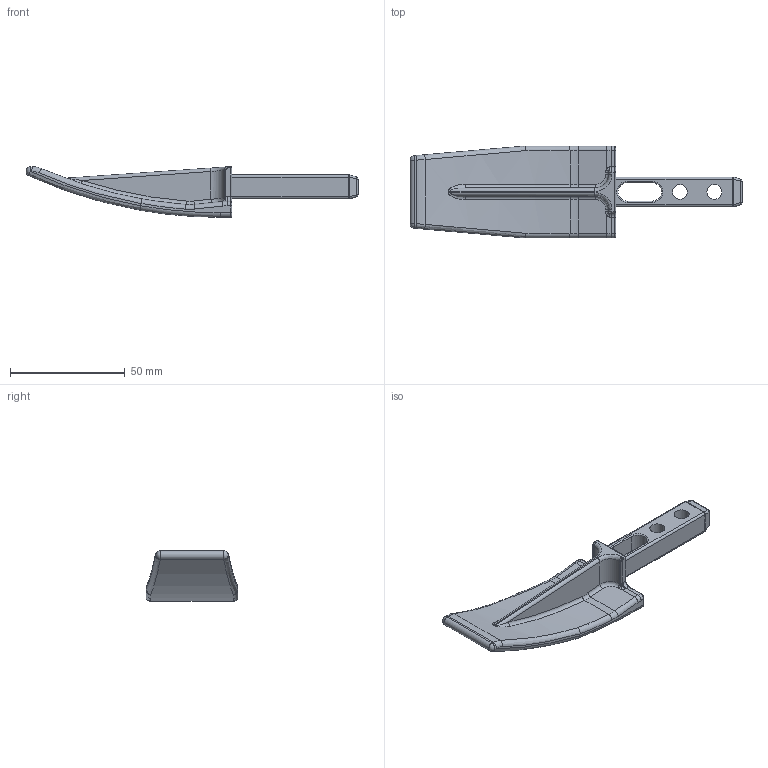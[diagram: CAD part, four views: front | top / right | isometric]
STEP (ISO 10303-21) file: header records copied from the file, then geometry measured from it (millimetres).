
FILE_DESCRIPTION (( 'STEP AP214' ), '1' );
FILE_NAME ('084.712.005.STEP', '2015-03-10T10:31:38', ( '' ), ( '' ), 'SwSTEP 2.0', 'SolidWorks 2012', '' );
FILE_SCHEMA (( 'AUTOMOTIVE_DESIGN' ));
Length unit declared in the file: millimetre
Products named in the file (1): 084.712.005
Bounding box: 144.48 x 40 x 22.05 mm (x, y, z)
Volume: 25779.5 mm3; surface area: 12688.2 mm2
Topology: 1 solids, 1 shells, 164 faces, 381 edges, 214 vertices
Faces by surface type: cylinder 65, plane 43, torus 26, bspline 18, sphere 12
Full cylindrical faces by diameter (mm): 6.5 x2
Entity records: 5151 total; most frequent: CARTESIAN_POINT 1518, DIRECTION 783, ORIENTED_EDGE 742, EDGE_CURVE 371, AXIS2_PLACEMENT_3D 309, VERTEX_POINT 214, EDGE_LOOP 175, FACE_OUTER_BOUND 166
